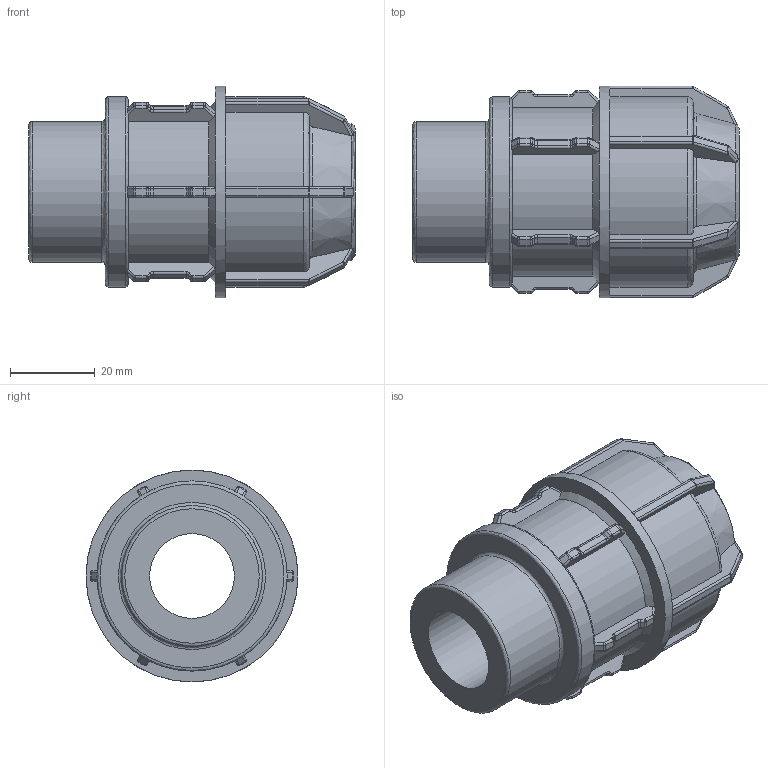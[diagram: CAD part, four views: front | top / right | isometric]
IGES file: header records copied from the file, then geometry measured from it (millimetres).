
Global section: file name: 140200025010.ipt; native system: Autodesk Inventor 2015; preprocessor: unknown; author: KIM; date: 20180409.130932; units: millimetre
Bounding box: 77 x 50 x 50 mm (x, y, z)
Volume: 65614 mm3; surface area: 20390.7 mm2
Topology: 1 solids, 1 shells, 470 faces, 1170 edges, 701 vertices
Faces by surface type: cylinder 171, plane 158, revolution 129, cone 12
Full cylindrical faces by diameter (mm): 33.249 x1, 44.886 x1, 50 x1
